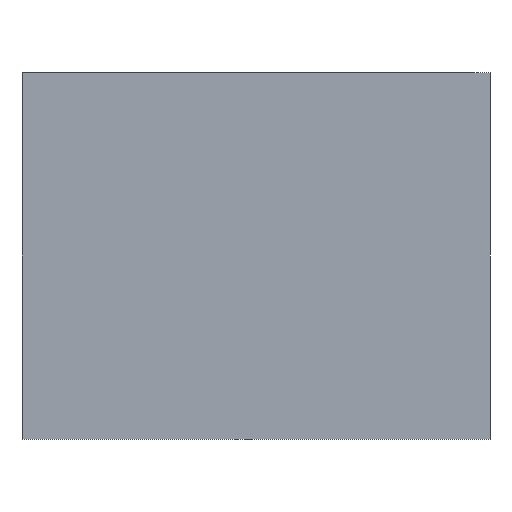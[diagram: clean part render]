
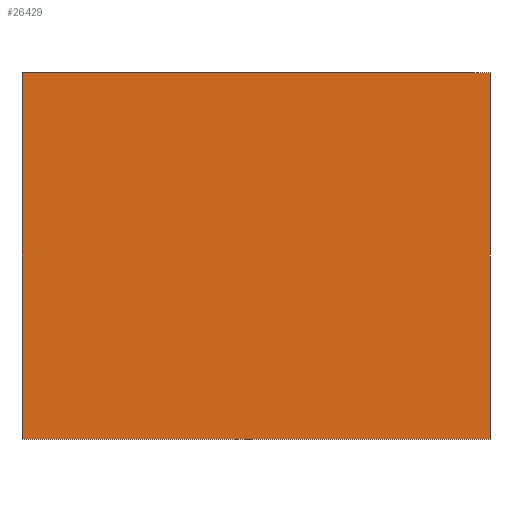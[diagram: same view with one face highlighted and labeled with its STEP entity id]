
A CAD part, front view. The second image highlights one B-rep face of the part: STEP entity #26429.
In plain terms, the highlighted planar face has unit normal (0, -1, 0).
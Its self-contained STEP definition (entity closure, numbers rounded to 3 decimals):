
#26429 = ADVANCED_FACE( '', ( #30093 ), #30094, .T. );
#30093 = FACE_OUTER_BOUND( '', #31689, .T. );
#30094 = PLANE( '', #31690 );
#31689 = EDGE_LOOP( '', ( #33962, #33963, #33964, #33965 ) );
#31690 = AXIS2_PLACEMENT_3D( '', #33966, #33967, #33968 );
#33962 = ORIENTED_EDGE( '', *, *, #44032, .T. );
#33963 = ORIENTED_EDGE( '', *, *, #44036, .T. );
#33964 = ORIENTED_EDGE( '', *, *, #44041, .T. );
#33965 = ORIENTED_EDGE( '', *, *, #44038, .T. );
#33966 = CARTESIAN_POINT( '', ( -234.95, -95.25, -368.3 ) );
#33967 = DIRECTION( '', ( 0., -1., 0. ) );
#33968 = DIRECTION( '', ( 0., 0., -1. ) );
#44032 = EDGE_CURVE( '', #45950, #45948, #45951, .T. );
#44036 = EDGE_CURVE( '', #45948, #45955, #45957, .T. );
#44038 = EDGE_CURVE( '', #45960, #45950, #45961, .T. );
#44041 = EDGE_CURVE( '', #45955, #45960, #45964, .T. );
#45948 = VERTEX_POINT( '', #45969 );
#45950 = VERTEX_POINT( '', #45972 );
#45951 = LINE( '', #45973, #45974 );
#45955 = VERTEX_POINT( '', #45980 );
#45957 = LINE( '', #45983, #45984 );
#45960 = VERTEX_POINT( '', #45988 );
#45961 = LINE( '', #45989, #45990 );
#45964 = LINE( '', #45995, #45996 );
#45969 = CARTESIAN_POINT( '', ( -234.95, -95.25, -368.3 ) );
#45972 = CARTESIAN_POINT( '', ( -234.95, -95.25, 0. ) );
#45973 = CARTESIAN_POINT( '', ( -234.95, -95.25, 0. ) );
#45974 = VECTOR( '', #45999, 1000. );
#45980 = CARTESIAN_POINT( '', ( 234.95, -95.25, -368.3 ) );
#45983 = CARTESIAN_POINT( '', ( -234.95, -95.25, -368.3 ) );
#45984 = VECTOR( '', #46003, 1000. );
#45988 = CARTESIAN_POINT( '', ( 234.95, -95.25, 0. ) );
#45989 = CARTESIAN_POINT( '', ( 234.95, -95.25, 0. ) );
#45990 = VECTOR( '', #46005, 1000. );
#45995 = CARTESIAN_POINT( '', ( 234.95, -95.25, -368.3 ) );
#45996 = VECTOR( '', #46008, 1000. );
#45999 = DIRECTION( '', ( 0., 0., -1. ) );
#46003 = DIRECTION( '', ( 1., 0., 0. ) );
#46005 = DIRECTION( '', ( -1., 0., 0. ) );
#46008 = DIRECTION( '', ( 0., 0., 1. ) );
